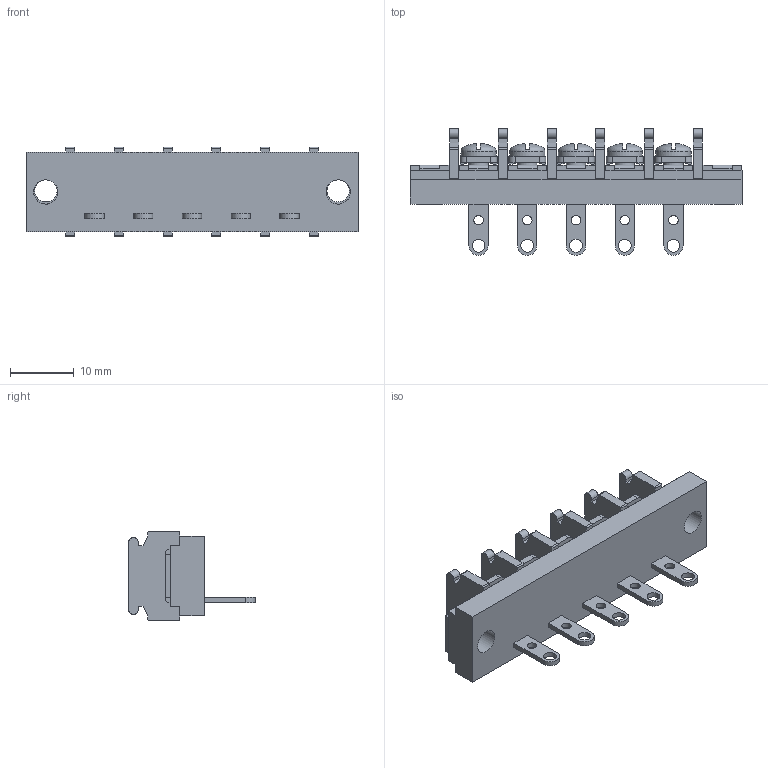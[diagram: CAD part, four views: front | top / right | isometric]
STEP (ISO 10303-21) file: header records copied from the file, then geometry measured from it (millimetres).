
FILE_DESCRIPTION(/* description */ ('Alibre Inc.'),/* implementation_level */ '2;1');
FILE_NAME(/* name */ 'export0',/* time_stamp */ '2015-10-23T20:00:13+09:00',/* author */ (''),/* organization */ (''),/* preprocessor_version */ 'ST-DEVELOPER v14',/* originating_system */ 'Alibre',/* authorisation */ '');
FILE_SCHEMA (('CONFIG_CONTROL_DESIGN'));
Length unit declared in the file: centimetre
Products named in the file (1): ID_1
Bounding box: 51.92 x 19.8 x 14 mm (x, y, z)
Volume: 4551.9 mm3; surface area: 4522.1 mm2
Topology: 1 solids, 17 shells, 1032 faces, 2795 edges, 1839 vertices
Faces by surface type: plane 784, cylinder 104, bspline 104, cone 20, torus 10, sphere 10
Full cylindrical faces by diameter (mm): 1.5 x5, 2 x5, 3 x5, 3.5 x2, 3.8 x2, 5.5 x5
Entity records: 30908 total; most frequent: CARTESIAN_POINT 6862, ORIENTED_EDGE 5474, DIRECTION 3749, EDGE_CURVE 2737, VECTOR 2012, LINE 2012, VERTEX_POINT 1815, AXIS2_PLACEMENT_3D 1227
